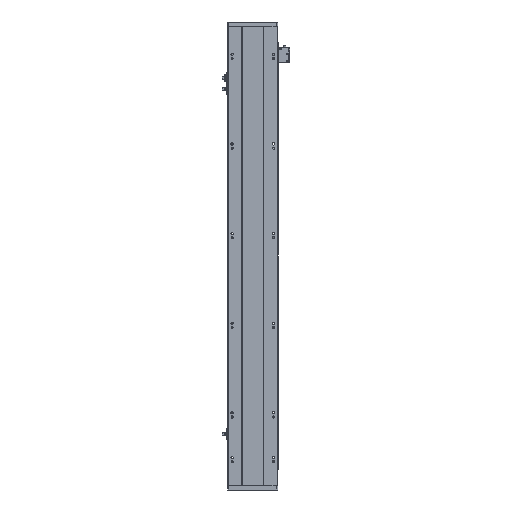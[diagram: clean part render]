
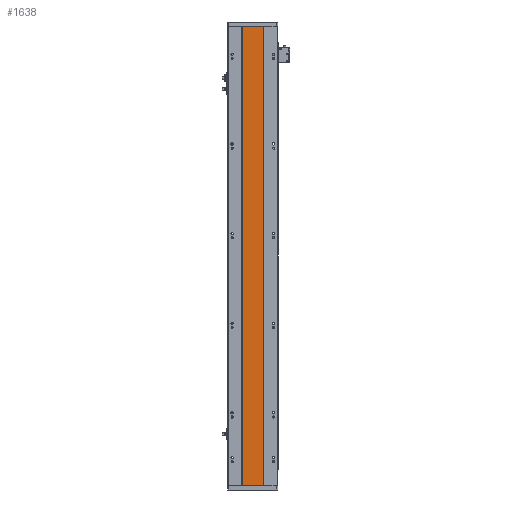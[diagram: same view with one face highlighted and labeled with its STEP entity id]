
A CAD part, front view. The second image highlights one B-rep face of the part: STEP entity #1638.
In plain terms, the highlighted planar face has unit normal (0, -1, 0).
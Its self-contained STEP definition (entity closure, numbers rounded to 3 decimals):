
#8 = DIRECTION ( 'NONE',  ( -1., 0., 0. ) ) ;
#1638 = ADVANCED_FACE ( 'NONE', ( #14979 ), #12152, .F. ) ;
#2090 = DIRECTION ( 'NONE',  ( 0., 0., -1. ) ) ;
#2144 = VECTOR ( 'NONE', #4028, 1000. ) ;
#2305 = DIRECTION ( 'NONE',  ( 1., 0., 0. ) ) ;
#2367 = DIRECTION ( 'NONE',  ( 1., 0., 0. ) ) ;
#3452 = EDGE_CURVE ( 'NONE', #13883, #24697, #24686, .T. ) ;
#3959 = AXIS2_PLACEMENT_3D ( 'NONE', #14245, #26549, #8 ) ;
#4028 = DIRECTION ( 'NONE',  ( 0., 0., -1. ) ) ;
#4382 = LINE ( 'NONE', #16449, #2144 ) ;
#7223 = LINE ( 'NONE', #12963, #13412 ) ;
#7712 = EDGE_LOOP ( 'NONE', ( #15852, #9746, #23859, #17444 ) ) ;
#8339 = CARTESIAN_POINT ( 'NONE',  ( 133.07, 115.96, 1108. ) ) ;
#9746 = ORIENTED_EDGE ( 'NONE', *, *, #25239, .F. ) ;
#10296 = CARTESIAN_POINT ( 'NONE',  ( 183.063, 115.96, 1108. ) ) ;
#11458 = LINE ( 'NONE', #20664, #24432 ) ;
#11476 = EDGE_CURVE ( 'NONE', #13883, #23004, #4382, .T. ) ;
#11695 = CARTESIAN_POINT ( 'NONE',  ( 133.07, 115.96, 0. ) ) ;
#12152 = PLANE ( 'NONE',  #3959 ) ;
#12963 = CARTESIAN_POINT ( 'NONE',  ( 0., 115.96, 0. ) ) ;
#13412 = VECTOR ( 'NONE', #2367, 1000. ) ;
#13883 = VERTEX_POINT ( 'NONE', #8339 ) ;
#14245 = CARTESIAN_POINT ( 'NONE',  ( 0., 115.96, 1108. ) ) ;
#14712 = CARTESIAN_POINT ( 'NONE',  ( 0., 115.96, 1108. ) ) ;
#14979 = FACE_OUTER_BOUND ( 'NONE', #7712, .T. ) ;
#15852 = ORIENTED_EDGE ( 'NONE', *, *, #24378, .T. ) ;
#16449 = CARTESIAN_POINT ( 'NONE',  ( 133.07, 115.96, 1108. ) ) ;
#17444 = ORIENTED_EDGE ( 'NONE', *, *, #11476, .T. ) ;
#20477 = VERTEX_POINT ( 'NONE', #21325 ) ;
#20664 = CARTESIAN_POINT ( 'NONE',  ( 183.063, 115.96, 1108. ) ) ;
#21325 = CARTESIAN_POINT ( 'NONE',  ( 183.063, 115.96, 0. ) ) ;
#23004 = VERTEX_POINT ( 'NONE', #11695 ) ;
#23032 = VECTOR ( 'NONE', #2305, 1000. ) ;
#23859 = ORIENTED_EDGE ( 'NONE', *, *, #3452, .F. ) ;
#24378 = EDGE_CURVE ( 'NONE', #23004, #20477, #7223, .T. ) ;
#24432 = VECTOR ( 'NONE', #2090, 1000. ) ;
#24686 = LINE ( 'NONE', #14712, #23032 ) ;
#24697 = VERTEX_POINT ( 'NONE', #10296 ) ;
#25239 = EDGE_CURVE ( 'NONE', #24697, #20477, #11458, .T. ) ;
#26549 = DIRECTION ( 'NONE',  ( 0., 1., 0. ) ) ;
